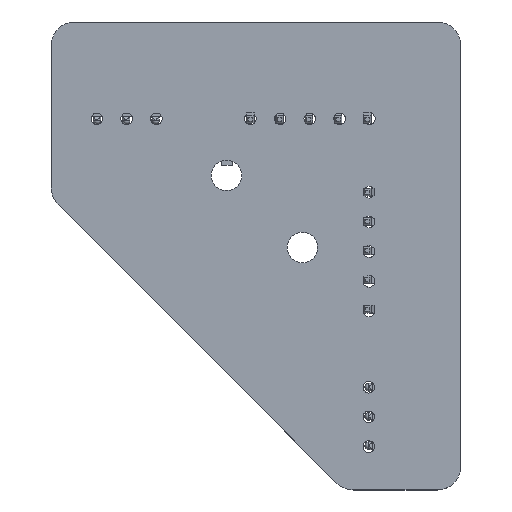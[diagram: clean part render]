
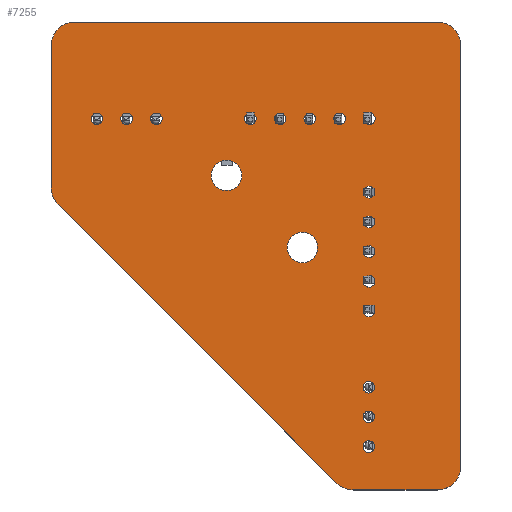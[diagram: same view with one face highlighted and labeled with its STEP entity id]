
A CAD part, top view. The second image highlights one B-rep face of the part: STEP entity #7255.
In plain terms, the highlighted planar face has unit normal (0, 0, 1).
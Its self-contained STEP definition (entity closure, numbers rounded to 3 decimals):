
#6891 = VERTEX_POINT('',#6892);
#6892 = CARTESIAN_POINT('',(89.4,-52.945,1.51));
#6898 = EDGE_CURVE('',#6891,#6899,#6901,.T.);
#6899 = VERTEX_POINT('',#6900);
#6900 = CARTESIAN_POINT('',(91.4,-54.945,1.51));
#6901 = CIRCLE('',#6902,2.);
#6902 = AXIS2_PLACEMENT_3D('',#6903,#6904,#6905);
#6903 = CARTESIAN_POINT('',(89.4,-54.945,1.51));
#6904 = DIRECTION('',(0.,0.,-1.));
#6905 = DIRECTION('',(0.,1.,0.));
#6933 = VERTEX_POINT('',#6934);
#6934 = CARTESIAN_POINT('',(58.4,-52.945,1.51));
#6940 = EDGE_CURVE('',#6933,#6891,#6941,.T.);
#6941 = LINE('',#6942,#6943);
#6942 = CARTESIAN_POINT('',(58.4,-52.945,1.51));
#6943 = VECTOR('',#6944,1.);
#6944 = DIRECTION('',(1.,0.,0.));
#6962 = EDGE_CURVE('',#6899,#6963,#6965,.T.);
#6963 = VERTEX_POINT('',#6964);
#6964 = CARTESIAN_POINT('',(91.4,-90.945,1.51));
#6965 = LINE('',#6966,#6967);
#6966 = CARTESIAN_POINT('',(91.4,-54.945,1.51));
#6967 = VECTOR('',#6968,1.);
#6968 = DIRECTION('',(0.,-1.,0.));
#7255 = ADVANCED_FACE('',(#7256,#7319,#7330,#7341,#7352,#7363,#7374,
    #7385,#7396,#7407,#7418,#7429,#7440,#7451,#7462,#7473,#7484,#7495,
    #7506),#7517,.T.);
#7256 = FACE_BOUND('',#7257,.T.);
#7257 = EDGE_LOOP('',(#7258,#7259,#7260,#7269,#7277,#7286,#7294,#7303,
    #7311,#7318));
#7258 = ORIENTED_EDGE('',*,*,#6898,.F.);
#7259 = ORIENTED_EDGE('',*,*,#6940,.F.);
#7260 = ORIENTED_EDGE('',*,*,#7261,.F.);
#7261 = EDGE_CURVE('',#7262,#6933,#7264,.T.);
#7262 = VERTEX_POINT('',#7263);
#7263 = CARTESIAN_POINT('',(56.4,-54.945,1.51));
#7264 = CIRCLE('',#7265,2.);
#7265 = AXIS2_PLACEMENT_3D('',#7266,#7267,#7268);
#7266 = CARTESIAN_POINT('',(58.4,-54.945,1.51));
#7267 = DIRECTION('',(0.,0.,-1.));
#7268 = DIRECTION('',(-1.,0.,-0.));
#7269 = ORIENTED_EDGE('',*,*,#7270,.F.);
#7270 = EDGE_CURVE('',#7271,#7262,#7273,.T.);
#7271 = VERTEX_POINT('',#7272);
#7272 = CARTESIAN_POINT('',(56.4,-67.117,1.51));
#7273 = LINE('',#7274,#7275);
#7274 = CARTESIAN_POINT('',(56.4,-67.117,1.51));
#7275 = VECTOR('',#7276,1.);
#7276 = DIRECTION('',(0.,1.,0.));
#7277 = ORIENTED_EDGE('',*,*,#7278,.F.);
#7278 = EDGE_CURVE('',#7279,#7271,#7281,.T.);
#7279 = VERTEX_POINT('',#7280);
#7280 = CARTESIAN_POINT('',(56.986,-68.531,1.51));
#7281 = CIRCLE('',#7282,2.);
#7282 = AXIS2_PLACEMENT_3D('',#7283,#7284,#7285);
#7283 = CARTESIAN_POINT('',(58.4,-67.117,1.51));
#7284 = DIRECTION('',(0.,0.,-1.));
#7285 = DIRECTION('',(-0.707,-0.707,-0.));
#7286 = ORIENTED_EDGE('',*,*,#7287,.F.);
#7287 = EDGE_CURVE('',#7288,#7279,#7290,.T.);
#7288 = VERTEX_POINT('',#7289);
#7289 = CARTESIAN_POINT('',(80.814,-92.359,1.51));
#7290 = LINE('',#7291,#7292);
#7291 = CARTESIAN_POINT('',(80.814,-92.359,1.51));
#7292 = VECTOR('',#7293,1.);
#7293 = DIRECTION('',(-0.707,0.707,0.));
#7294 = ORIENTED_EDGE('',*,*,#7295,.F.);
#7295 = EDGE_CURVE('',#7296,#7288,#7298,.T.);
#7296 = VERTEX_POINT('',#7297);
#7297 = CARTESIAN_POINT('',(82.228,-92.945,1.51));
#7298 = CIRCLE('',#7299,2.);
#7299 = AXIS2_PLACEMENT_3D('',#7300,#7301,#7302);
#7300 = CARTESIAN_POINT('',(82.228,-90.945,1.51));
#7301 = DIRECTION('',(0.,0.,-1.));
#7302 = DIRECTION('',(0.,-1.,0.));
#7303 = ORIENTED_EDGE('',*,*,#7304,.F.);
#7304 = EDGE_CURVE('',#7305,#7296,#7307,.T.);
#7305 = VERTEX_POINT('',#7306);
#7306 = CARTESIAN_POINT('',(89.4,-92.945,1.51));
#7307 = LINE('',#7308,#7309);
#7308 = CARTESIAN_POINT('',(89.4,-92.945,1.51));
#7309 = VECTOR('',#7310,1.);
#7310 = DIRECTION('',(-1.,0.,0.));
#7311 = ORIENTED_EDGE('',*,*,#7312,.F.);
#7312 = EDGE_CURVE('',#6963,#7305,#7313,.T.);
#7313 = CIRCLE('',#7314,2.);
#7314 = AXIS2_PLACEMENT_3D('',#7315,#7316,#7317);
#7315 = CARTESIAN_POINT('',(89.4,-90.945,1.51));
#7316 = DIRECTION('',(0.,0.,-1.));
#7317 = DIRECTION('',(1.,0.,0.));
#7318 = ORIENTED_EDGE('',*,*,#6962,.F.);
#7319 = FACE_BOUND('',#7320,.T.);
#7320 = EDGE_LOOP('',(#7321));
#7321 = ORIENTED_EDGE('',*,*,#7322,.T.);
#7322 = EDGE_CURVE('',#7323,#7323,#7325,.T.);
#7323 = VERTEX_POINT('',#7324);
#7324 = CARTESIAN_POINT('',(83.55,-89.74,1.51));
#7325 = CIRCLE('',#7326,0.5);
#7326 = AXIS2_PLACEMENT_3D('',#7327,#7328,#7329);
#7327 = CARTESIAN_POINT('',(83.55,-89.24,1.51));
#7328 = DIRECTION('',(-0.,0.,-1.));
#7329 = DIRECTION('',(-0.,-1.,0.));
#7330 = FACE_BOUND('',#7331,.T.);
#7331 = EDGE_LOOP('',(#7332));
#7332 = ORIENTED_EDGE('',*,*,#7333,.T.);
#7333 = EDGE_CURVE('',#7334,#7334,#7336,.T.);
#7334 = VERTEX_POINT('',#7335);
#7335 = CARTESIAN_POINT('',(83.55,-87.2,1.51));
#7336 = CIRCLE('',#7337,0.5);
#7337 = AXIS2_PLACEMENT_3D('',#7338,#7339,#7340);
#7338 = CARTESIAN_POINT('',(83.55,-86.7,1.51));
#7339 = DIRECTION('',(-0.,0.,-1.));
#7340 = DIRECTION('',(-0.,-1.,0.));
#7341 = FACE_BOUND('',#7342,.T.);
#7342 = EDGE_LOOP('',(#7343));
#7343 = ORIENTED_EDGE('',*,*,#7344,.T.);
#7344 = EDGE_CURVE('',#7345,#7345,#7347,.T.);
#7345 = VERTEX_POINT('',#7346);
#7346 = CARTESIAN_POINT('',(83.55,-84.66,1.51));
#7347 = CIRCLE('',#7348,0.5);
#7348 = AXIS2_PLACEMENT_3D('',#7349,#7350,#7351);
#7349 = CARTESIAN_POINT('',(83.55,-84.16,1.51));
#7350 = DIRECTION('',(-0.,0.,-1.));
#7351 = DIRECTION('',(-0.,-1.,0.));
#7352 = FACE_BOUND('',#7353,.T.);
#7353 = EDGE_LOOP('',(#7354));
#7354 = ORIENTED_EDGE('',*,*,#7355,.T.);
#7355 = EDGE_CURVE('',#7356,#7356,#7358,.T.);
#7356 = VERTEX_POINT('',#7357);
#7357 = CARTESIAN_POINT('',(83.56,-78.15,1.51));
#7358 = CIRCLE('',#7359,0.5);
#7359 = AXIS2_PLACEMENT_3D('',#7360,#7361,#7362);
#7360 = CARTESIAN_POINT('',(83.56,-77.65,1.51));
#7361 = DIRECTION('',(-0.,0.,-1.));
#7362 = DIRECTION('',(-0.,-1.,0.));
#7363 = FACE_BOUND('',#7364,.T.);
#7364 = EDGE_LOOP('',(#7365));
#7365 = ORIENTED_EDGE('',*,*,#7366,.T.);
#7366 = EDGE_CURVE('',#7367,#7367,#7369,.T.);
#7367 = VERTEX_POINT('',#7368);
#7368 = CARTESIAN_POINT('',(60.3,-61.73,1.51));
#7369 = CIRCLE('',#7370,0.5);
#7370 = AXIS2_PLACEMENT_3D('',#7371,#7372,#7373);
#7371 = CARTESIAN_POINT('',(60.3,-61.23,1.51));
#7372 = DIRECTION('',(-0.,0.,-1.));
#7373 = DIRECTION('',(-0.,-1.,0.));
#7374 = FACE_BOUND('',#7375,.T.);
#7375 = EDGE_LOOP('',(#7376));
#7376 = ORIENTED_EDGE('',*,*,#7377,.T.);
#7377 = EDGE_CURVE('',#7378,#7378,#7380,.T.);
#7378 = VERTEX_POINT('',#7379);
#7379 = CARTESIAN_POINT('',(62.84,-61.73,1.51));
#7380 = CIRCLE('',#7381,0.5);
#7381 = AXIS2_PLACEMENT_3D('',#7382,#7383,#7384);
#7382 = CARTESIAN_POINT('',(62.84,-61.23,1.51));
#7383 = DIRECTION('',(-0.,0.,-1.));
#7384 = DIRECTION('',(-0.,-1.,0.));
#7385 = FACE_BOUND('',#7386,.T.);
#7386 = EDGE_LOOP('',(#7387));
#7387 = ORIENTED_EDGE('',*,*,#7388,.T.);
#7388 = EDGE_CURVE('',#7389,#7389,#7391,.T.);
#7389 = VERTEX_POINT('',#7390);
#7390 = CARTESIAN_POINT('',(65.38,-61.73,1.51));
#7391 = CIRCLE('',#7392,0.5);
#7392 = AXIS2_PLACEMENT_3D('',#7393,#7394,#7395);
#7393 = CARTESIAN_POINT('',(65.38,-61.23,1.51));
#7394 = DIRECTION('',(-0.,0.,-1.));
#7395 = DIRECTION('',(-0.,-1.,0.));
#7396 = FACE_BOUND('',#7397,.T.);
#7397 = EDGE_LOOP('',(#7398));
#7398 = ORIENTED_EDGE('',*,*,#7399,.T.);
#7399 = EDGE_CURVE('',#7400,#7400,#7402,.T.);
#7400 = VERTEX_POINT('',#7401);
#7401 = CARTESIAN_POINT('',(71.38,-67.36,1.51));
#7402 = CIRCLE('',#7403,1.3);
#7403 = AXIS2_PLACEMENT_3D('',#7404,#7405,#7406);
#7404 = CARTESIAN_POINT('',(71.38,-66.06,1.51));
#7405 = DIRECTION('',(-0.,0.,-1.));
#7406 = DIRECTION('',(-0.,-1.,0.));
#7407 = FACE_BOUND('',#7408,.T.);
#7408 = EDGE_LOOP('',(#7409));
#7409 = ORIENTED_EDGE('',*,*,#7410,.T.);
#7410 = EDGE_CURVE('',#7411,#7411,#7413,.T.);
#7411 = VERTEX_POINT('',#7412);
#7412 = CARTESIAN_POINT('',(77.87,-73.52,1.51));
#7413 = CIRCLE('',#7414,1.3);
#7414 = AXIS2_PLACEMENT_3D('',#7415,#7416,#7417);
#7415 = CARTESIAN_POINT('',(77.87,-72.22,1.51));
#7416 = DIRECTION('',(-0.,0.,-1.));
#7417 = DIRECTION('',(-0.,-1.,0.));
#7418 = FACE_BOUND('',#7419,.T.);
#7419 = EDGE_LOOP('',(#7420));
#7420 = ORIENTED_EDGE('',*,*,#7421,.T.);
#7421 = EDGE_CURVE('',#7422,#7422,#7424,.T.);
#7422 = VERTEX_POINT('',#7423);
#7423 = CARTESIAN_POINT('',(83.56,-75.61,1.51));
#7424 = CIRCLE('',#7425,0.5);
#7425 = AXIS2_PLACEMENT_3D('',#7426,#7427,#7428);
#7426 = CARTESIAN_POINT('',(83.56,-75.11,1.51));
#7427 = DIRECTION('',(-0.,0.,-1.));
#7428 = DIRECTION('',(-0.,-1.,0.));
#7429 = FACE_BOUND('',#7430,.T.);
#7430 = EDGE_LOOP('',(#7431));
#7431 = ORIENTED_EDGE('',*,*,#7432,.T.);
#7432 = EDGE_CURVE('',#7433,#7433,#7435,.T.);
#7433 = VERTEX_POINT('',#7434);
#7434 = CARTESIAN_POINT('',(83.56,-73.07,1.51));
#7435 = CIRCLE('',#7436,0.5);
#7436 = AXIS2_PLACEMENT_3D('',#7437,#7438,#7439);
#7437 = CARTESIAN_POINT('',(83.56,-72.57,1.51));
#7438 = DIRECTION('',(-0.,0.,-1.));
#7439 = DIRECTION('',(-0.,-1.,0.));
#7440 = FACE_BOUND('',#7441,.T.);
#7441 = EDGE_LOOP('',(#7442));
#7442 = ORIENTED_EDGE('',*,*,#7443,.T.);
#7443 = EDGE_CURVE('',#7444,#7444,#7446,.T.);
#7444 = VERTEX_POINT('',#7445);
#7445 = CARTESIAN_POINT('',(83.56,-70.53,1.51));
#7446 = CIRCLE('',#7447,0.5);
#7447 = AXIS2_PLACEMENT_3D('',#7448,#7449,#7450);
#7448 = CARTESIAN_POINT('',(83.56,-70.03,1.51));
#7449 = DIRECTION('',(-0.,0.,-1.));
#7450 = DIRECTION('',(-0.,-1.,0.));
#7451 = FACE_BOUND('',#7452,.T.);
#7452 = EDGE_LOOP('',(#7453));
#7453 = ORIENTED_EDGE('',*,*,#7454,.T.);
#7454 = EDGE_CURVE('',#7455,#7455,#7457,.T.);
#7455 = VERTEX_POINT('',#7456);
#7456 = CARTESIAN_POINT('',(73.42,-61.73,1.51));
#7457 = CIRCLE('',#7458,0.5);
#7458 = AXIS2_PLACEMENT_3D('',#7459,#7460,#7461);
#7459 = CARTESIAN_POINT('',(73.42,-61.23,1.51));
#7460 = DIRECTION('',(-0.,0.,-1.));
#7461 = DIRECTION('',(-0.,-1.,0.));
#7462 = FACE_BOUND('',#7463,.T.);
#7463 = EDGE_LOOP('',(#7464));
#7464 = ORIENTED_EDGE('',*,*,#7465,.T.);
#7465 = EDGE_CURVE('',#7466,#7466,#7468,.T.);
#7466 = VERTEX_POINT('',#7467);
#7467 = CARTESIAN_POINT('',(75.96,-61.73,1.51));
#7468 = CIRCLE('',#7469,0.5);
#7469 = AXIS2_PLACEMENT_3D('',#7470,#7471,#7472);
#7470 = CARTESIAN_POINT('',(75.96,-61.23,1.51));
#7471 = DIRECTION('',(-0.,0.,-1.));
#7472 = DIRECTION('',(-0.,-1.,0.));
#7473 = FACE_BOUND('',#7474,.T.);
#7474 = EDGE_LOOP('',(#7475));
#7475 = ORIENTED_EDGE('',*,*,#7476,.T.);
#7476 = EDGE_CURVE('',#7477,#7477,#7479,.T.);
#7477 = VERTEX_POINT('',#7478);
#7478 = CARTESIAN_POINT('',(83.56,-67.99,1.51));
#7479 = CIRCLE('',#7480,0.5);
#7480 = AXIS2_PLACEMENT_3D('',#7481,#7482,#7483);
#7481 = CARTESIAN_POINT('',(83.56,-67.49,1.51));
#7482 = DIRECTION('',(-0.,0.,-1.));
#7483 = DIRECTION('',(-0.,-1.,0.));
#7484 = FACE_BOUND('',#7485,.T.);
#7485 = EDGE_LOOP('',(#7486));
#7486 = ORIENTED_EDGE('',*,*,#7487,.T.);
#7487 = EDGE_CURVE('',#7488,#7488,#7490,.T.);
#7488 = VERTEX_POINT('',#7489);
#7489 = CARTESIAN_POINT('',(78.5,-61.73,1.51));
#7490 = CIRCLE('',#7491,0.5);
#7491 = AXIS2_PLACEMENT_3D('',#7492,#7493,#7494);
#7492 = CARTESIAN_POINT('',(78.5,-61.23,1.51));
#7493 = DIRECTION('',(-0.,0.,-1.));
#7494 = DIRECTION('',(-0.,-1.,0.));
#7495 = FACE_BOUND('',#7496,.T.);
#7496 = EDGE_LOOP('',(#7497));
#7497 = ORIENTED_EDGE('',*,*,#7498,.T.);
#7498 = EDGE_CURVE('',#7499,#7499,#7501,.T.);
#7499 = VERTEX_POINT('',#7500);
#7500 = CARTESIAN_POINT('',(81.04,-61.73,1.51));
#7501 = CIRCLE('',#7502,0.5);
#7502 = AXIS2_PLACEMENT_3D('',#7503,#7504,#7505);
#7503 = CARTESIAN_POINT('',(81.04,-61.23,1.51));
#7504 = DIRECTION('',(-0.,0.,-1.));
#7505 = DIRECTION('',(-0.,-1.,0.));
#7506 = FACE_BOUND('',#7507,.T.);
#7507 = EDGE_LOOP('',(#7508));
#7508 = ORIENTED_EDGE('',*,*,#7509,.T.);
#7509 = EDGE_CURVE('',#7510,#7510,#7512,.T.);
#7510 = VERTEX_POINT('',#7511);
#7511 = CARTESIAN_POINT('',(83.58,-61.73,1.51));
#7512 = CIRCLE('',#7513,0.5);
#7513 = AXIS2_PLACEMENT_3D('',#7514,#7515,#7516);
#7514 = CARTESIAN_POINT('',(83.58,-61.23,1.51));
#7515 = DIRECTION('',(-0.,0.,-1.));
#7516 = DIRECTION('',(-0.,-1.,0.));
#7517 = PLANE('',#7518);
#7518 = AXIS2_PLACEMENT_3D('',#7519,#7520,#7521);
#7519 = CARTESIAN_POINT('',(0.,0.,1.51));
#7520 = DIRECTION('',(0.,0.,1.));
#7521 = DIRECTION('',(1.,0.,-0.));
